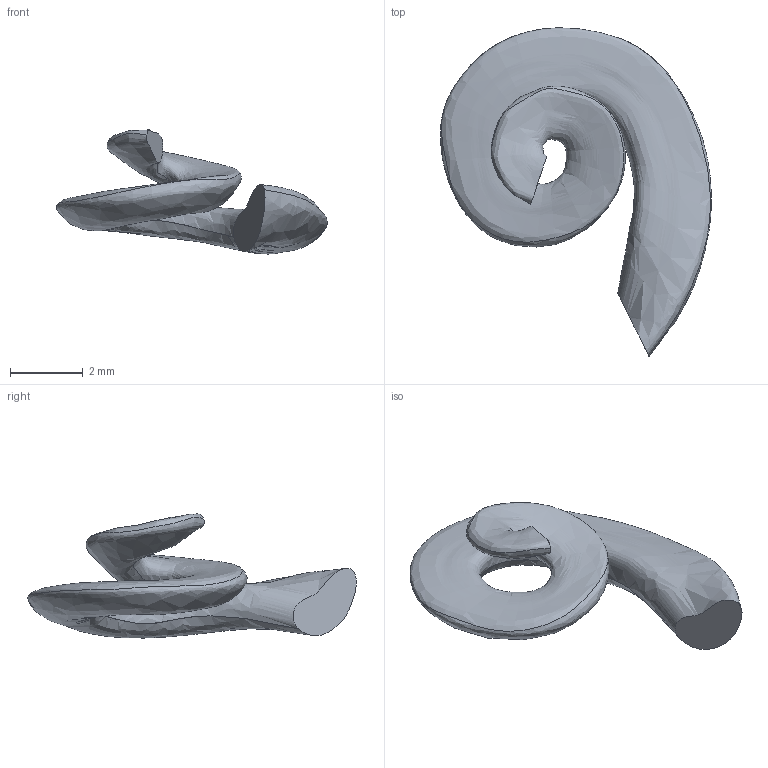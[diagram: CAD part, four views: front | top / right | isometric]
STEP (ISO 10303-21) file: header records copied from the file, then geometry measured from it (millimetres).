
FILE_DESCRIPTION (( 'STEP AP214' ), '1' );
FILE_NAME ('ST_mean_model.STEP', '2023-11-17T11:59:13', ( '' ), ( '' ), 'SwSTEP 2.0', 'SolidWorks 2022', '' );
FILE_SCHEMA (( 'AUTOMOTIVE_DESIGN' ));
Length unit declared in the file: metre
Products named in the file (1): ST_mean_model
Bounding box: 7.43 x 9.02 x 3.41 mm (x, y, z)
Volume: 33.5 mm3; surface area: 110.1 mm2
Topology: 1 solids, 1 shells, 5 faces, 7 edges, 4 vertices
Faces by surface type: bspline 3, plane 2
Entity records: 4911 total; most frequent: CARTESIAN_POINT 4812, ORIENTED_EDGE 14, EDGE_CURVE 7, B_SPLINE_CURVE_WITH_KNOTS 7, DIRECTION 6, EDGE_LOOP 5, ADVANCED_FACE 5, FACE_OUTER_BOUND 5
